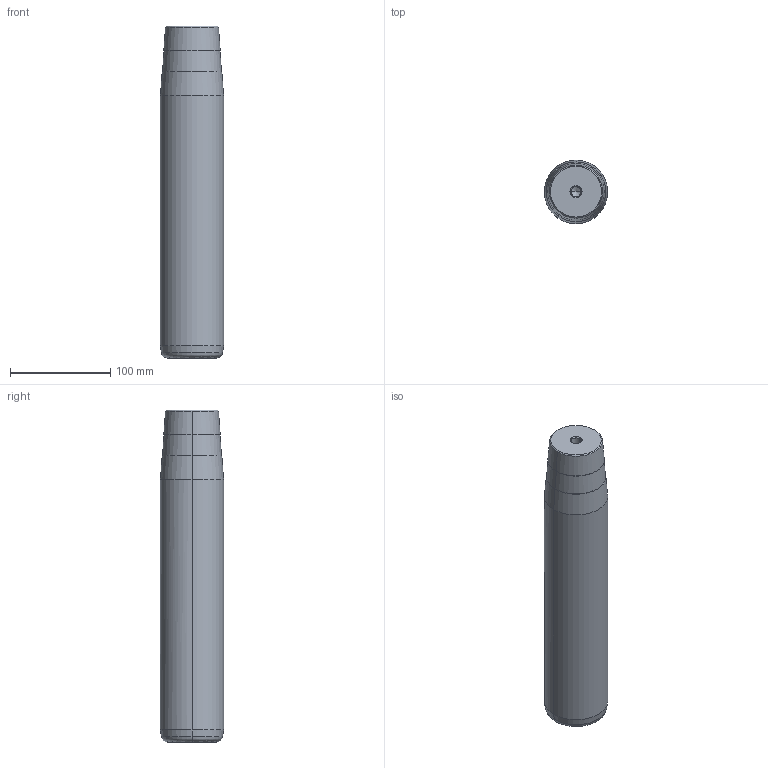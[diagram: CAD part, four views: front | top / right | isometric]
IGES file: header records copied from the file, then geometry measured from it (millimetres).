
Start section: START RECORD GO HERE.
Global section: file name: 722-63x280x331.igs; native system: DASSAULT SYSTEMES CATIA V5 R20 - www.3ds.com; preprocessor: CATIA Version 5 Release 20 ; author: Utente; organization: NB04-ASUS; date: 20210107.202213; units: millimetre
Bounding box: 63 x 63 x 331 mm (x, y, z)
Surface area: 70760 mm2 (no closed solid volume)
Topology: 0 solids, 0 shells, 32 faces, 128 edges, 124 vertices
Faces by surface type: revolution 30, plane 2
